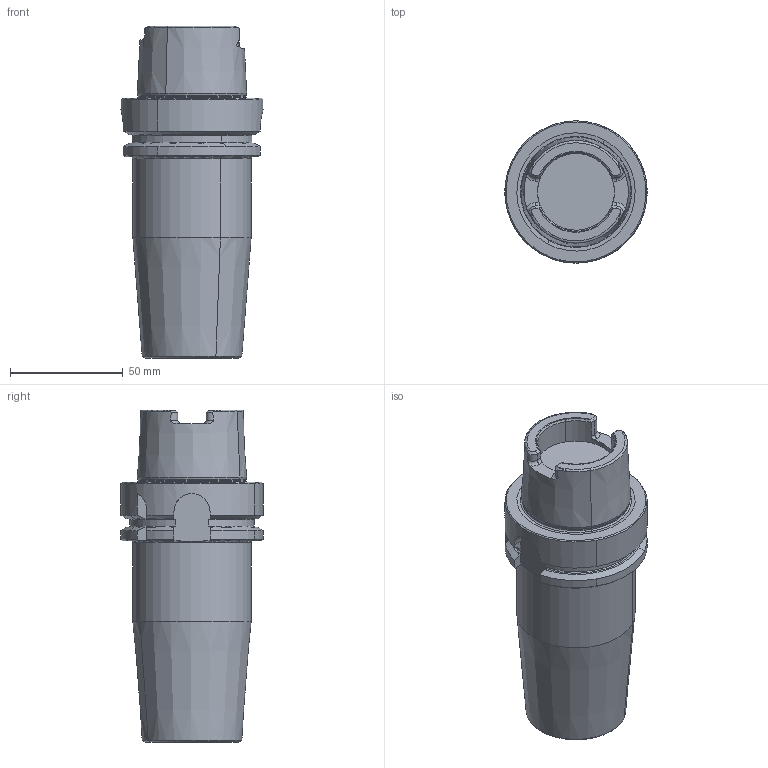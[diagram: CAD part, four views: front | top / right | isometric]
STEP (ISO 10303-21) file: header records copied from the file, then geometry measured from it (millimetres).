
FILE_DESCRIPTION(('CATIA V5 STEP','CAx-IF Rec.Pracs.--- Model Styling and Organization---1.2---2011-12-15'),'2;1');
FILE_NAME('\\nas01\drv1\utils\eitdev\rte\eit\transmagicconvert\db\out\4503907 L.stp','2014-04-02T05:25:40+00:00',('none'),('none'),'CATIA Version 5 Release 21 SP 5 (IN-10)','CATIA V5 STEP AP214','none');
FILE_SCHEMA(('AUTOMOTIVE_DESIGN { 1 0 10303 214 1 1 1 1 }'));
Length unit declared in the file: millimetre
Products named in the file (1): 60966380_0 Holder-Tool HSK A 63 SRKIN 25X115
Bounding box: 63 x 63 x 147 mm (x, y, z)
Volume: 291162.3 mm3; surface area: 31063.9 mm2
Topology: 1 solids, 1 shells, 135 faces, 361 edges, 230 vertices
Faces by surface type: plane 42, cone 33, cylinder 32, torus 28
Entity records: 4319 total; most frequent: CARTESIAN_POINT 1332, ORIENTED_EDGE 722, DIRECTION 438, EDGE_CURVE 361, AXIS2_PLACEMENT_3D 231, VERTEX_POINT 230, CIRCLE 151, EDGE_LOOP 137
